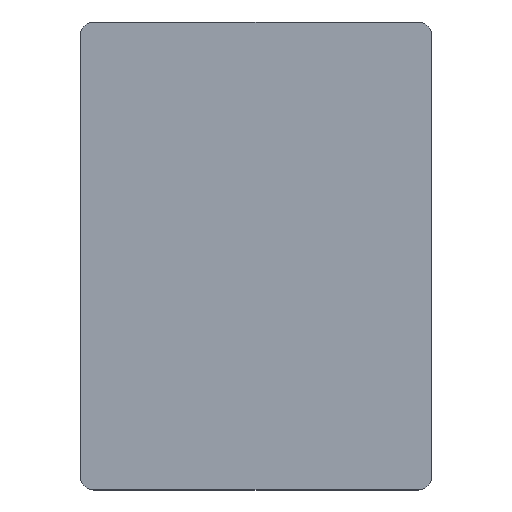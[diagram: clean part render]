
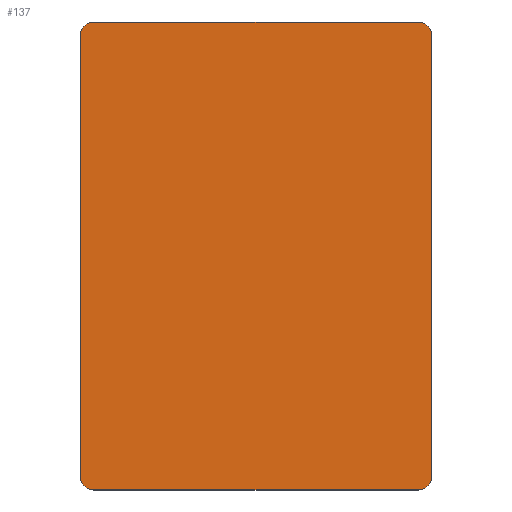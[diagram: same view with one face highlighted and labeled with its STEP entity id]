
A CAD part, top view. The second image highlights one B-rep face of the part: STEP entity #137.
In plain terms, the highlighted planar face has unit normal (0, 0, 1).
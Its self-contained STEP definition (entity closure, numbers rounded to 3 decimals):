
#21 = EDGE_CURVE('',#22,#24,#26,.T.);
#22 = VERTEX_POINT('',#23);
#23 = CARTESIAN_POINT('',(-27.,-38.,1.8));
#24 = VERTEX_POINT('',#25);
#25 = CARTESIAN_POINT('',(-27.,30.,1.8));
#26 = SURFACE_CURVE('',#27,(#31,#43),.PCURVE_S1.);
#27 = LINE('',#28,#29);
#28 = CARTESIAN_POINT('',(-27.,-40.,1.8));
#29 = VECTOR('',#30,1.);
#30 = DIRECTION('',(0.,1.,0.));
#31 = PCURVE('',#32,#37);
#32 = PLANE('',#33);
#33 = AXIS2_PLACEMENT_3D('',#34,#35,#36);
#34 = CARTESIAN_POINT('',(-27.,-40.,1.3));
#35 = DIRECTION('',(1.,0.,0.));
#36 = DIRECTION('',(0.,0.,1.));
#37 = DEFINITIONAL_REPRESENTATION('',(#38),#42);
#38 = LINE('',#39,#40);
#39 = CARTESIAN_POINT('',(0.5,0.));
#40 = VECTOR('',#41,1.);
#41 = DIRECTION('',(0.,-1.));
#42 = ( GEOMETRIC_REPRESENTATION_CONTEXT(2) 
PARAMETRIC_REPRESENTATION_CONTEXT() REPRESENTATION_CONTEXT('2D SPACE',''
  ) );
#43 = PCURVE('',#44,#49);
#44 = PLANE('',#45);
#45 = AXIS2_PLACEMENT_3D('',#46,#47,#48);
#46 = CARTESIAN_POINT('',(-27.,-40.,1.8));
#47 = DIRECTION('',(0.,0.,1.));
#48 = DIRECTION('',(1.,0.,-0.));
#49 = DEFINITIONAL_REPRESENTATION('',(#50),#54);
#50 = LINE('',#51,#52);
#51 = CARTESIAN_POINT('',(0.,0.));
#52 = VECTOR('',#53,1.);
#53 = DIRECTION('',(0.,1.));
#54 = ( GEOMETRIC_REPRESENTATION_CONTEXT(2) 
PARAMETRIC_REPRESENTATION_CONTEXT() REPRESENTATION_CONTEXT('2D SPACE',''
  ) );
#72 = CYLINDRICAL_SURFACE('',#73,2.);
#73 = AXIS2_PLACEMENT_3D('',#74,#75,#76);
#74 = CARTESIAN_POINT('',(-25.,-38.,1.3));
#75 = DIRECTION('',(0.,0.,1.));
#76 = DIRECTION('',(-1.,-0.,0.));
#126 = CYLINDRICAL_SURFACE('',#127,2.);
#127 = AXIS2_PLACEMENT_3D('',#128,#129,#130);
#128 = CARTESIAN_POINT('',(-25.,30.,1.3));
#129 = DIRECTION('',(0.,0.,1.));
#130 = DIRECTION('',(-1.,-0.,0.));
#137 = ADVANCED_FACE('',(#138),#44,.T.);
#138 = FACE_BOUND('',#139,.T.);
#139 = EDGE_LOOP('',(#140,#141,#165,#193,#226,#254,#283,#311));
#140 = ORIENTED_EDGE('',*,*,#21,.F.);
#141 = ORIENTED_EDGE('',*,*,#142,.T.);
#142 = EDGE_CURVE('',#22,#143,#145,.T.);
#143 = VERTEX_POINT('',#144);
#144 = CARTESIAN_POINT('',(-25.,-40.,1.8));
#145 = SURFACE_CURVE('',#146,(#151,#158),.PCURVE_S1.);
#146 = CIRCLE('',#147,2.);
#147 = AXIS2_PLACEMENT_3D('',#148,#149,#150);
#148 = CARTESIAN_POINT('',(-25.,-38.,1.8));
#149 = DIRECTION('',(0.,0.,1.));
#150 = DIRECTION('',(0.,-1.,0.));
#151 = PCURVE('',#44,#152);
#152 = DEFINITIONAL_REPRESENTATION('',(#153),#157);
#153 = CIRCLE('',#154,2.);
#154 = AXIS2_PLACEMENT_2D('',#155,#156);
#155 = CARTESIAN_POINT('',(2.,2.));
#156 = DIRECTION('',(0.,-1.));
#157 = ( GEOMETRIC_REPRESENTATION_CONTEXT(2) 
PARAMETRIC_REPRESENTATION_CONTEXT() REPRESENTATION_CONTEXT('2D SPACE',''
  ) );
#158 = PCURVE('',#72,#159);
#159 = DEFINITIONAL_REPRESENTATION('',(#160),#164);
#160 = LINE('',#161,#162);
#161 = CARTESIAN_POINT('',(-4.712,0.5));
#162 = VECTOR('',#163,1.);
#163 = DIRECTION('',(1.,0.));
#164 = ( GEOMETRIC_REPRESENTATION_CONTEXT(2) 
PARAMETRIC_REPRESENTATION_CONTEXT() REPRESENTATION_CONTEXT('2D SPACE',''
  ) );
#165 = ORIENTED_EDGE('',*,*,#166,.T.);
#166 = EDGE_CURVE('',#143,#167,#169,.T.);
#167 = VERTEX_POINT('',#168);
#168 = CARTESIAN_POINT('',(25.,-40.,1.8));
#169 = SURFACE_CURVE('',#170,(#174,#181),.PCURVE_S1.);
#170 = LINE('',#171,#172);
#171 = CARTESIAN_POINT('',(-27.,-40.,1.8));
#172 = VECTOR('',#173,1.);
#173 = DIRECTION('',(1.,0.,0.));
#174 = PCURVE('',#44,#175);
#175 = DEFINITIONAL_REPRESENTATION('',(#176),#180);
#176 = LINE('',#177,#178);
#177 = CARTESIAN_POINT('',(0.,0.));
#178 = VECTOR('',#179,1.);
#179 = DIRECTION('',(1.,0.));
#180 = ( GEOMETRIC_REPRESENTATION_CONTEXT(2) 
PARAMETRIC_REPRESENTATION_CONTEXT() REPRESENTATION_CONTEXT('2D SPACE',''
  ) );
#181 = PCURVE('',#182,#187);
#182 = PLANE('',#183);
#183 = AXIS2_PLACEMENT_3D('',#184,#185,#186);
#184 = CARTESIAN_POINT('',(-27.,-40.,1.3));
#185 = DIRECTION('',(0.,1.,0.));
#186 = DIRECTION('',(0.,-0.,1.));
#187 = DEFINITIONAL_REPRESENTATION('',(#188),#192);
#188 = LINE('',#189,#190);
#189 = CARTESIAN_POINT('',(0.5,0.));
#190 = VECTOR('',#191,1.);
#191 = DIRECTION('',(0.,1.));
#192 = ( GEOMETRIC_REPRESENTATION_CONTEXT(2) 
PARAMETRIC_REPRESENTATION_CONTEXT() REPRESENTATION_CONTEXT('2D SPACE',''
  ) );
#193 = ORIENTED_EDGE('',*,*,#194,.F.);
#194 = EDGE_CURVE('',#195,#167,#197,.T.);
#195 = VERTEX_POINT('',#196);
#196 = CARTESIAN_POINT('',(27.,-38.,1.8));
#197 = SURFACE_CURVE('',#198,(#203,#214),.PCURVE_S1.);
#198 = CIRCLE('',#199,2.);
#199 = AXIS2_PLACEMENT_3D('',#200,#201,#202);
#200 = CARTESIAN_POINT('',(25.,-38.,1.8));
#201 = DIRECTION('',(-0.,-0.,-1.));
#202 = DIRECTION('',(0.,-1.,0.));
#203 = PCURVE('',#44,#204);
#204 = DEFINITIONAL_REPRESENTATION('',(#205),#213);
#205 = ( BOUNDED_CURVE() B_SPLINE_CURVE(2,(#206,#207,#208,#209,#210,#211
,#212),.UNSPECIFIED.,.T.,.F.) B_SPLINE_CURVE_WITH_KNOTS((1,2,2,2,2,1),(
    -2.094,0.,2.094,4.189,6.283,
8.378),.UNSPECIFIED.) CURVE() GEOMETRIC_REPRESENTATION_ITEM() 
RATIONAL_B_SPLINE_CURVE((1.,0.5,1.,0.5,1.,0.5,1.)) REPRESENTATION_ITEM(
  '') );
#206 = CARTESIAN_POINT('',(52.,0.));
#207 = CARTESIAN_POINT('',(48.536,0.));
#208 = CARTESIAN_POINT('',(50.268,3.));
#209 = CARTESIAN_POINT('',(52.,6.));
#210 = CARTESIAN_POINT('',(53.732,3.));
#211 = CARTESIAN_POINT('',(55.464,0.));
#212 = CARTESIAN_POINT('',(52.,0.));
#213 = ( GEOMETRIC_REPRESENTATION_CONTEXT(2) 
PARAMETRIC_REPRESENTATION_CONTEXT() REPRESENTATION_CONTEXT('2D SPACE',''
  ) );
#214 = PCURVE('',#215,#220);
#215 = CYLINDRICAL_SURFACE('',#216,2.);
#216 = AXIS2_PLACEMENT_3D('',#217,#218,#219);
#217 = CARTESIAN_POINT('',(25.,-38.,1.3));
#218 = DIRECTION('',(0.,0.,1.));
#219 = DIRECTION('',(1.,0.,-0.));
#220 = DEFINITIONAL_REPRESENTATION('',(#221),#225);
#221 = LINE('',#222,#223);
#222 = CARTESIAN_POINT('',(10.996,0.5));
#223 = VECTOR('',#224,1.);
#224 = DIRECTION('',(-1.,0.));
#225 = ( GEOMETRIC_REPRESENTATION_CONTEXT(2) 
PARAMETRIC_REPRESENTATION_CONTEXT() REPRESENTATION_CONTEXT('2D SPACE',''
  ) );
#226 = ORIENTED_EDGE('',*,*,#227,.T.);
#227 = EDGE_CURVE('',#195,#228,#230,.T.);
#228 = VERTEX_POINT('',#229);
#229 = CARTESIAN_POINT('',(27.,30.,1.8));
#230 = SURFACE_CURVE('',#231,(#235,#242),.PCURVE_S1.);
#231 = LINE('',#232,#233);
#232 = CARTESIAN_POINT('',(27.,-40.,1.8));
#233 = VECTOR('',#234,1.);
#234 = DIRECTION('',(0.,1.,0.));
#235 = PCURVE('',#44,#236);
#236 = DEFINITIONAL_REPRESENTATION('',(#237),#241);
#237 = LINE('',#238,#239);
#238 = CARTESIAN_POINT('',(54.,0.));
#239 = VECTOR('',#240,1.);
#240 = DIRECTION('',(0.,1.));
#241 = ( GEOMETRIC_REPRESENTATION_CONTEXT(2) 
PARAMETRIC_REPRESENTATION_CONTEXT() REPRESENTATION_CONTEXT('2D SPACE',''
  ) );
#242 = PCURVE('',#243,#248);
#243 = PLANE('',#244);
#244 = AXIS2_PLACEMENT_3D('',#245,#246,#247);
#245 = CARTESIAN_POINT('',(27.,-40.,1.3));
#246 = DIRECTION('',(1.,0.,0.));
#247 = DIRECTION('',(0.,0.,1.));
#248 = DEFINITIONAL_REPRESENTATION('',(#249),#253);
#249 = LINE('',#250,#251);
#250 = CARTESIAN_POINT('',(0.5,0.));
#251 = VECTOR('',#252,1.);
#252 = DIRECTION('',(0.,-1.));
#253 = ( GEOMETRIC_REPRESENTATION_CONTEXT(2) 
PARAMETRIC_REPRESENTATION_CONTEXT() REPRESENTATION_CONTEXT('2D SPACE',''
  ) );
#254 = ORIENTED_EDGE('',*,*,#255,.T.);
#255 = EDGE_CURVE('',#228,#256,#258,.T.);
#256 = VERTEX_POINT('',#257);
#257 = CARTESIAN_POINT('',(25.,32.,1.8));
#258 = SURFACE_CURVE('',#259,(#264,#271),.PCURVE_S1.);
#259 = CIRCLE('',#260,2.);
#260 = AXIS2_PLACEMENT_3D('',#261,#262,#263);
#261 = CARTESIAN_POINT('',(25.,30.,1.8));
#262 = DIRECTION('',(0.,0.,1.));
#263 = DIRECTION('',(0.,-1.,0.));
#264 = PCURVE('',#44,#265);
#265 = DEFINITIONAL_REPRESENTATION('',(#266),#270);
#266 = CIRCLE('',#267,2.);
#267 = AXIS2_PLACEMENT_2D('',#268,#269);
#268 = CARTESIAN_POINT('',(52.,70.));
#269 = DIRECTION('',(0.,-1.));
#270 = ( GEOMETRIC_REPRESENTATION_CONTEXT(2) 
PARAMETRIC_REPRESENTATION_CONTEXT() REPRESENTATION_CONTEXT('2D SPACE',''
  ) );
#271 = PCURVE('',#272,#277);
#272 = CYLINDRICAL_SURFACE('',#273,2.);
#273 = AXIS2_PLACEMENT_3D('',#274,#275,#276);
#274 = CARTESIAN_POINT('',(25.,30.,1.3));
#275 = DIRECTION('',(0.,0.,1.));
#276 = DIRECTION('',(1.,0.,-0.));
#277 = DEFINITIONAL_REPRESENTATION('',(#278),#282);
#278 = LINE('',#279,#280);
#279 = CARTESIAN_POINT('',(-1.571,0.5));
#280 = VECTOR('',#281,1.);
#281 = DIRECTION('',(1.,0.));
#282 = ( GEOMETRIC_REPRESENTATION_CONTEXT(2) 
PARAMETRIC_REPRESENTATION_CONTEXT() REPRESENTATION_CONTEXT('2D SPACE',''
  ) );
#283 = ORIENTED_EDGE('',*,*,#284,.F.);
#284 = EDGE_CURVE('',#285,#256,#287,.T.);
#285 = VERTEX_POINT('',#286);
#286 = CARTESIAN_POINT('',(-25.,32.,1.8));
#287 = SURFACE_CURVE('',#288,(#292,#299),.PCURVE_S1.);
#288 = LINE('',#289,#290);
#289 = CARTESIAN_POINT('',(-27.,32.,1.8));
#290 = VECTOR('',#291,1.);
#291 = DIRECTION('',(1.,0.,0.));
#292 = PCURVE('',#44,#293);
#293 = DEFINITIONAL_REPRESENTATION('',(#294),#298);
#294 = LINE('',#295,#296);
#295 = CARTESIAN_POINT('',(0.,72.));
#296 = VECTOR('',#297,1.);
#297 = DIRECTION('',(1.,0.));
#298 = ( GEOMETRIC_REPRESENTATION_CONTEXT(2) 
PARAMETRIC_REPRESENTATION_CONTEXT() REPRESENTATION_CONTEXT('2D SPACE',''
  ) );
#299 = PCURVE('',#300,#305);
#300 = PLANE('',#301);
#301 = AXIS2_PLACEMENT_3D('',#302,#303,#304);
#302 = CARTESIAN_POINT('',(-27.,32.,1.3));
#303 = DIRECTION('',(0.,1.,0.));
#304 = DIRECTION('',(0.,-0.,1.));
#305 = DEFINITIONAL_REPRESENTATION('',(#306),#310);
#306 = LINE('',#307,#308);
#307 = CARTESIAN_POINT('',(0.5,0.));
#308 = VECTOR('',#309,1.);
#309 = DIRECTION('',(0.,1.));
#310 = ( GEOMETRIC_REPRESENTATION_CONTEXT(2) 
PARAMETRIC_REPRESENTATION_CONTEXT() REPRESENTATION_CONTEXT('2D SPACE',''
  ) );
#311 = ORIENTED_EDGE('',*,*,#312,.F.);
#312 = EDGE_CURVE('',#24,#285,#313,.T.);
#313 = SURFACE_CURVE('',#314,(#319,#330),.PCURVE_S1.);
#314 = CIRCLE('',#315,2.);
#315 = AXIS2_PLACEMENT_3D('',#316,#317,#318);
#316 = CARTESIAN_POINT('',(-25.,30.,1.8));
#317 = DIRECTION('',(-0.,-0.,-1.));
#318 = DIRECTION('',(0.,-1.,0.));
#319 = PCURVE('',#44,#320);
#320 = DEFINITIONAL_REPRESENTATION('',(#321),#329);
#321 = ( BOUNDED_CURVE() B_SPLINE_CURVE(2,(#322,#323,#324,#325,#326,#327
,#328),.UNSPECIFIED.,.T.,.F.) B_SPLINE_CURVE_WITH_KNOTS((1,2,2,2,2,1),(
    -2.094,0.,2.094,4.189,6.283,
8.378),.UNSPECIFIED.) CURVE() GEOMETRIC_REPRESENTATION_ITEM() 
RATIONAL_B_SPLINE_CURVE((1.,0.5,1.,0.5,1.,0.5,1.)) REPRESENTATION_ITEM(
  '') );
#322 = CARTESIAN_POINT('',(2.,68.));
#323 = CARTESIAN_POINT('',(-1.464,68.));
#324 = CARTESIAN_POINT('',(0.268,71.));
#325 = CARTESIAN_POINT('',(2.,74.));
#326 = CARTESIAN_POINT('',(3.732,71.));
#327 = CARTESIAN_POINT('',(5.464,68.));
#328 = CARTESIAN_POINT('',(2.,68.));
#329 = ( GEOMETRIC_REPRESENTATION_CONTEXT(2) 
PARAMETRIC_REPRESENTATION_CONTEXT() REPRESENTATION_CONTEXT('2D SPACE',''
  ) );
#330 = PCURVE('',#126,#331);
#331 = DEFINITIONAL_REPRESENTATION('',(#332),#336);
#332 = LINE('',#333,#334);
#333 = CARTESIAN_POINT('',(7.854,0.5));
#334 = VECTOR('',#335,1.);
#335 = DIRECTION('',(-1.,0.));
#336 = ( GEOMETRIC_REPRESENTATION_CONTEXT(2) 
PARAMETRIC_REPRESENTATION_CONTEXT() REPRESENTATION_CONTEXT('2D SPACE',''
  ) );
